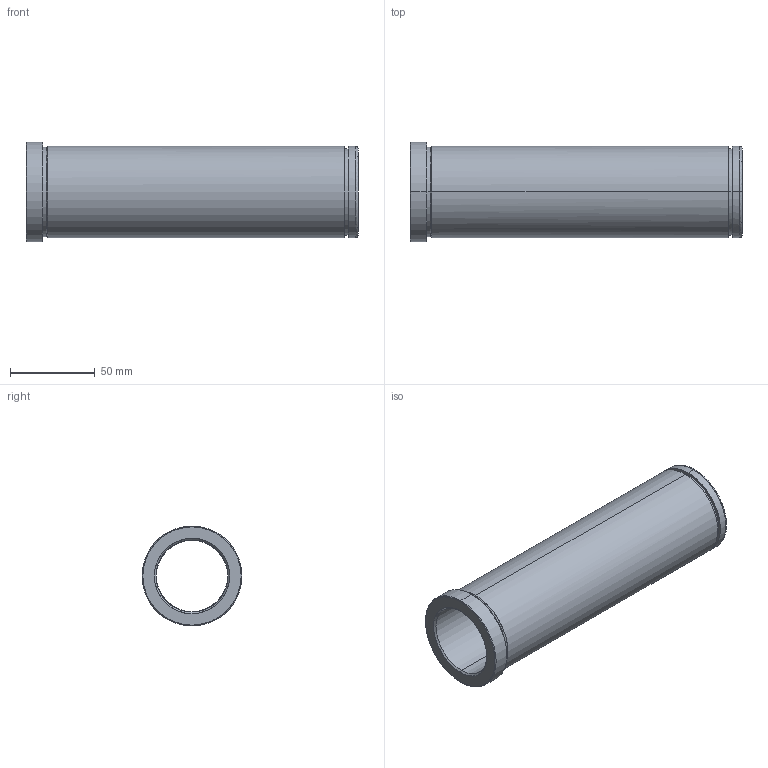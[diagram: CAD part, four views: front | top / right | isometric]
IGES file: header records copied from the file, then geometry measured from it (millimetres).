
Start section: START RECORD GO HERE.
Global section: file name: 553-42X196.igs; native system: DASSAULT SYSTEMES CATIA V5 R20 - www.3ds.com; preprocessor: CATIA Version 5 Release 20 ; author: Utente; organization: NB04-ASUS; date: 20210608.195725; units: millimetre
Bounding box: 196 x 59 x 59 mm (x, y, z)
Surface area: 62252.5 mm2 (no closed solid volume)
Topology: 0 solids, 0 shells, 32 faces, 204 edges, 204 vertices
Faces by surface type: revolution 26, plane 6
